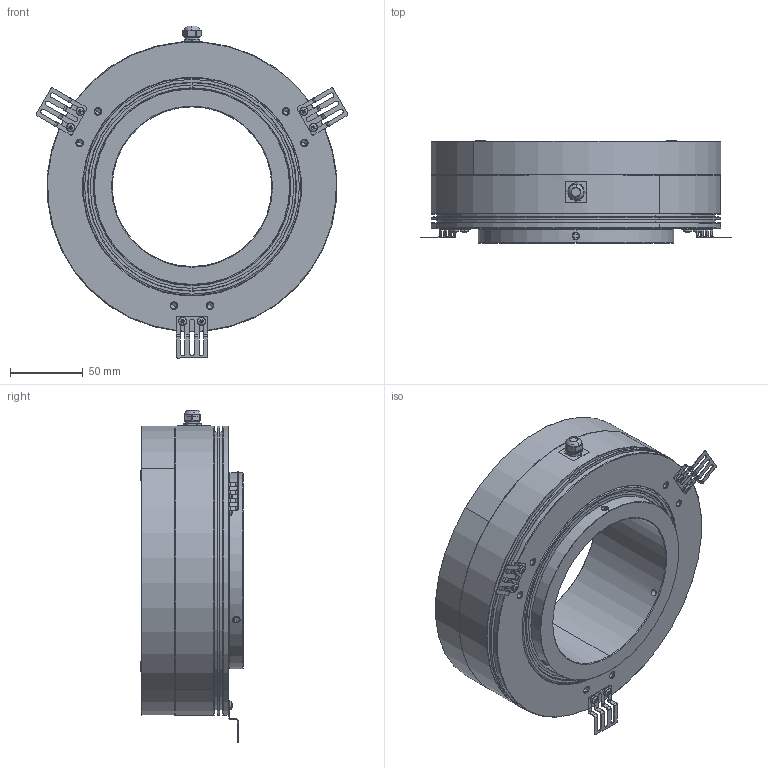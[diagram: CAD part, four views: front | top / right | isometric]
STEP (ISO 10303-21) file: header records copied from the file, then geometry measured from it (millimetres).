
FILE_DESCRIPTION (( 'STEP AP214' ), '1' );
FILE_NAME ('PKM44x30.STEP', '2025-07-23T12:01:34', ( '' ), ( '' ), 'SwSTEP 2.0', 'SolidWorks 2019', '' );
FILE_SCHEMA (( 'AUTOMOTIVE_DESIGN' ));
Length unit declared in the file: millimetre
Products named in the file (1): PKM44x30
Bounding box: 214.69 x 70.5 x 228.74 mm (x, y, z)
Volume: 866956.2 mm3; surface area: 254119.3 mm2
Topology: 1 solids, 17 shells, 1038 faces, 2553 edges, 1524 vertices
Faces by surface type: plane 374, cylinder 299, cone 265, bspline 46, torus 28, sphere 26
Entity records: 42880 total; most frequent: CARTESIAN_POINT 7022, DIRECTION 5434, ORIENTED_EDGE 4986, EDGE_CURVE 2493, AXIS2_PLACEMENT_3D 2158, VERTEX_POINT 1524, CIRCLE 1165, EDGE_LOOP 1125
